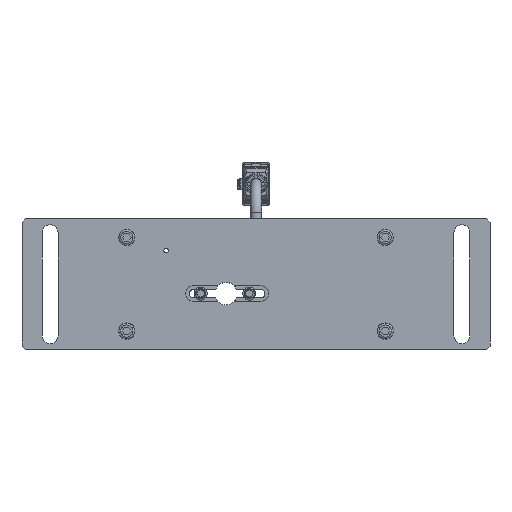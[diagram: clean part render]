
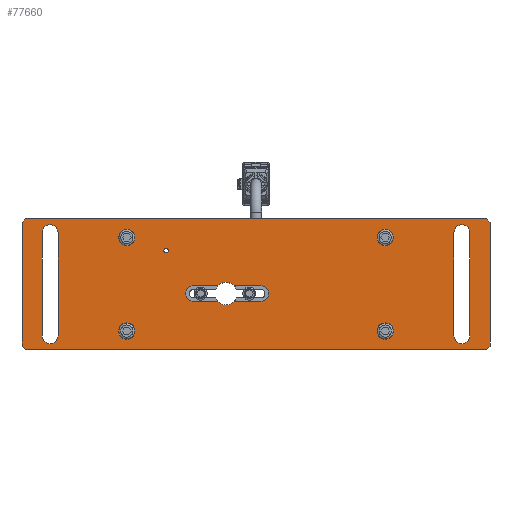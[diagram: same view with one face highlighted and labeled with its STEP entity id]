
A CAD part, front view. The second image highlights one B-rep face of the part: STEP entity #77660.
In plain terms, the highlighted planar face has unit normal (0, -1, 0) as drawn and (0, 0, 1) by its records, which use the part's own axes.
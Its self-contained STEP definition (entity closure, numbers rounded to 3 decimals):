
#2126=CIRCLE('',#81004,4.25);
#2127=CIRCLE('',#81005,4.25);
#2128=CIRCLE('',#81006,4.25);
#2129=CIRCLE('',#81007,4.25);
#2130=CIRCLE('',#81008,1.23);
#2131=CIRCLE('',#81009,6.);
#2132=CIRCLE('',#81010,4.15);
#2133=CIRCLE('',#81011,6.);
#2134=CIRCLE('',#81012,4.15);
#2135=CIRCLE('',#81013,4.35);
#2136=CIRCLE('',#81014,4.35);
#2137=CIRCLE('',#81015,4.35);
#2138=CIRCLE('',#81016,4.35);
#4760=ORIENTED_EDGE('',*,*,#23420,.F.);
#4761=ORIENTED_EDGE('',*,*,#23421,.F.);
#4762=ORIENTED_EDGE('',*,*,#23422,.F.);
#4763=ORIENTED_EDGE('',*,*,#23423,.F.);
#4764=ORIENTED_EDGE('',*,*,#23424,.F.);
#4765=ORIENTED_EDGE('',*,*,#23425,.F.);
#4766=ORIENTED_EDGE('',*,*,#23426,.F.);
#4767=ORIENTED_EDGE('',*,*,#23427,.F.);
#4768=ORIENTED_EDGE('',*,*,#23428,.T.);
#4769=ORIENTED_EDGE('',*,*,#23429,.F.);
#4770=ORIENTED_EDGE('',*,*,#23419,.T.);
#4771=ORIENTED_EDGE('',*,*,#23430,.T.);
#4772=ORIENTED_EDGE('',*,*,#23431,.T.);
#4773=ORIENTED_EDGE('',*,*,#23432,.F.);
#4774=ORIENTED_EDGE('',*,*,#23415,.T.);
#4775=ORIENTED_EDGE('',*,*,#23433,.T.);
#4776=ORIENTED_EDGE('',*,*,#23434,.T.);
#4777=ORIENTED_EDGE('',*,*,#23435,.T.);
#4778=ORIENTED_EDGE('',*,*,#23436,.T.);
#4779=ORIENTED_EDGE('',*,*,#23437,.T.);
#4780=ORIENTED_EDGE('',*,*,#23438,.T.);
#4781=ORIENTED_EDGE('',*,*,#23439,.T.);
#4782=ORIENTED_EDGE('',*,*,#23440,.T.);
#4783=ORIENTED_EDGE('',*,*,#23441,.T.);
#4784=ORIENTED_EDGE('',*,*,#23442,.T.);
#4785=ORIENTED_EDGE('',*,*,#23443,.T.);
#4786=ORIENTED_EDGE('',*,*,#23444,.T.);
#4787=ORIENTED_EDGE('',*,*,#23445,.T.);
#4788=ORIENTED_EDGE('',*,*,#23446,.T.);
#23415=EDGE_CURVE('',#32743,#32744,#38962,.T.);
#23419=EDGE_CURVE('',#32746,#32748,#38966,.T.);
#23420=EDGE_CURVE('',#32749,#32750,#2126,.T.);
#23421=EDGE_CURVE('',#32751,#32749,#38967,.T.);
#23422=EDGE_CURVE('',#32752,#32751,#2127,.T.);
#23423=EDGE_CURVE('',#32750,#32752,#38968,.T.);
#23424=EDGE_CURVE('',#32753,#32754,#2128,.T.);
#23425=EDGE_CURVE('',#32755,#32753,#38969,.T.);
#23426=EDGE_CURVE('',#32756,#32755,#2129,.T.);
#23427=EDGE_CURVE('',#32754,#32756,#38970,.T.);
#23428=EDGE_CURVE('',#32757,#32757,#2130,.T.);
#23429=EDGE_CURVE('',#32746,#32758,#2131,.T.);
#23430=EDGE_CURVE('',#32748,#32759,#2132,.T.);
#23431=EDGE_CURVE('',#32759,#32760,#38971,.T.);
#23432=EDGE_CURVE('',#32743,#32760,#2133,.T.);
#23433=EDGE_CURVE('',#32744,#32761,#2134,.T.);
#23434=EDGE_CURVE('',#32761,#32758,#38972,.T.);
#23435=EDGE_CURVE('',#32762,#32763,#38973,.T.);
#23436=EDGE_CURVE('',#32763,#32764,#38974,.F.);
#23437=EDGE_CURVE('',#32764,#32765,#38975,.T.);
#23438=EDGE_CURVE('',#32765,#32766,#38976,.F.);
#23439=EDGE_CURVE('',#32766,#32767,#38977,.T.);
#23440=EDGE_CURVE('',#32767,#32768,#38978,.F.);
#23441=EDGE_CURVE('',#32768,#32769,#38979,.T.);
#23442=EDGE_CURVE('',#32769,#32762,#38980,.F.);
#23443=EDGE_CURVE('',#32770,#32770,#2135,.T.);
#23444=EDGE_CURVE('',#32771,#32771,#2136,.T.);
#23445=EDGE_CURVE('',#32772,#32772,#2137,.T.);
#23446=EDGE_CURVE('',#32773,#32773,#2138,.T.);
#32743=VERTEX_POINT('',#105184);
#32744=VERTEX_POINT('',#105186);
#32746=VERTEX_POINT('',#105191);
#32748=VERTEX_POINT('',#105195);
#32749=VERTEX_POINT('',#105199);
#32750=VERTEX_POINT('',#105200);
#32751=VERTEX_POINT('',#105202);
#32752=VERTEX_POINT('',#105204);
#32753=VERTEX_POINT('',#105207);
#32754=VERTEX_POINT('',#105208);
#32755=VERTEX_POINT('',#105210);
#32756=VERTEX_POINT('',#105212);
#32757=VERTEX_POINT('',#105215);
#32758=VERTEX_POINT('',#105217);
#32759=VERTEX_POINT('',#105219);
#32760=VERTEX_POINT('',#105221);
#32761=VERTEX_POINT('',#105224);
#32762=VERTEX_POINT('',#105227);
#32763=VERTEX_POINT('',#105228);
#32764=VERTEX_POINT('',#105230);
#32765=VERTEX_POINT('',#105232);
#32766=VERTEX_POINT('',#105234);
#32767=VERTEX_POINT('',#105236);
#32768=VERTEX_POINT('',#105238);
#32769=VERTEX_POINT('',#105240);
#32770=VERTEX_POINT('',#105243);
#32771=VERTEX_POINT('',#105245);
#32772=VERTEX_POINT('',#105247);
#32773=VERTEX_POINT('',#105249);
#38962=LINE('',#105187,#45064);
#38966=LINE('',#105196,#45068);
#38967=LINE('',#105201,#45069);
#38968=LINE('',#105205,#45070);
#38969=LINE('',#105209,#45071);
#38970=LINE('',#105213,#45072);
#38971=LINE('',#105220,#45073);
#38972=LINE('',#105225,#45074);
#38973=LINE('',#105226,#45075);
#38974=LINE('',#105229,#45076);
#38975=LINE('',#105231,#45077);
#38976=LINE('',#105233,#45078);
#38977=LINE('',#105235,#45079);
#38978=LINE('',#105237,#45080);
#38979=LINE('',#105239,#45081);
#38980=LINE('',#105241,#45082);
#45064=VECTOR('',#87042,1000.);
#45068=VECTOR('',#87048,1000.);
#45069=VECTOR('',#87053,1000.);
#45070=VECTOR('',#87056,1000.);
#45071=VECTOR('',#87059,1000.);
#45072=VECTOR('',#87062,1000.);
#45073=VECTOR('',#87069,1000.);
#45074=VECTOR('',#87074,1000.);
#45075=VECTOR('',#87075,1000.);
#45076=VECTOR('',#87076,1000.);
#45077=VECTOR('',#87077,1000.);
#45078=VECTOR('',#87078,1000.);
#45079=VECTOR('',#87079,1000.);
#45080=VECTOR('',#87080,1000.);
#45081=VECTOR('',#87081,1000.);
#45082=VECTOR('',#87082,1000.);
#51158=EDGE_LOOP('',(#4760,#4761,#4762,#4763));
#51159=EDGE_LOOP('',(#4764,#4765,#4766,#4767));
#51160=EDGE_LOOP('',(#4768));
#51161=EDGE_LOOP('',(#4769,#4770,#4771,#4772,#4773,#4774,#4775,#4776));
#51162=EDGE_LOOP('',(#4777,#4778,#4779,#4780,#4781,#4782,#4783,#4784));
#51163=EDGE_LOOP('',(#4785));
#51164=EDGE_LOOP('',(#4786));
#51165=EDGE_LOOP('',(#4787));
#51166=EDGE_LOOP('',(#4788));
#54659=FACE_BOUND('',#51158,.T.);
#54660=FACE_BOUND('',#51159,.T.);
#54661=FACE_BOUND('',#51160,.T.);
#54662=FACE_BOUND('',#51161,.T.);
#54663=FACE_BOUND('',#51162,.T.);
#54664=FACE_BOUND('',#51163,.T.);
#54665=FACE_BOUND('',#51164,.T.);
#54666=FACE_BOUND('',#51165,.T.);
#54667=FACE_BOUND('',#51166,.T.);
#58160=PLANE('',#81003);
#77660=ADVANCED_FACE('',(#54659,#54660,#54661,#54662,#54663,#54664,#54665,
#54666,#54667),#58160,.T.);
#81003=AXIS2_PLACEMENT_3D('',#105197,#87049,#87050);
#81004=AXIS2_PLACEMENT_3D('',#105198,#87051,#87052);
#81005=AXIS2_PLACEMENT_3D('',#105203,#87054,#87055);
#81006=AXIS2_PLACEMENT_3D('',#105206,#87057,#87058);
#81007=AXIS2_PLACEMENT_3D('',#105211,#87060,#87061);
#81008=AXIS2_PLACEMENT_3D('',#105214,#87063,#87064);
#81009=AXIS2_PLACEMENT_3D('',#105216,#87065,#87066);
#81010=AXIS2_PLACEMENT_3D('',#105218,#87067,#87068);
#81011=AXIS2_PLACEMENT_3D('',#105222,#87070,#87071);
#81012=AXIS2_PLACEMENT_3D('',#105223,#87072,#87073);
#81013=AXIS2_PLACEMENT_3D('',#105242,#87083,#87084);
#81014=AXIS2_PLACEMENT_3D('',#105244,#87085,#87086);
#81015=AXIS2_PLACEMENT_3D('',#105246,#87087,#87088);
#81016=AXIS2_PLACEMENT_3D('',#105248,#87089,#87090);
#87042=DIRECTION('',(-1.,0.,0.));
#87048=DIRECTION('',(1.,0.,0.));
#87049=DIRECTION('',(0.,0.,1.));
#87050=DIRECTION('',(1.,0.,0.));
#87051=DIRECTION('',(0.,0.,1.));
#87052=DIRECTION('',(1.,0.,0.));
#87053=DIRECTION('',(0.,1.,0.));
#87054=DIRECTION('',(0.,0.,1.));
#87055=DIRECTION('',(-1.,0.,0.));
#87056=DIRECTION('',(0.,-1.,0.));
#87057=DIRECTION('',(0.,0.,1.));
#87058=DIRECTION('',(1.,0.,0.));
#87059=DIRECTION('',(0.,1.,0.));
#87060=DIRECTION('',(0.,0.,1.));
#87061=DIRECTION('',(-1.,0.,0.));
#87062=DIRECTION('',(0.,-1.,0.));
#87063=DIRECTION('',(0.,0.,-1.));
#87064=DIRECTION('',(0.,-1.,0.));
#87065=DIRECTION('',(0.,0.,1.));
#87066=DIRECTION('',(1.,0.,0.));
#87067=DIRECTION('',(0.,0.,-1.));
#87068=DIRECTION('',(-1.,0.,0.));
#87069=DIRECTION('',(-1.,0.,0.));
#87070=DIRECTION('',(0.,0.,1.));
#87071=DIRECTION('',(1.,0.,0.));
#87072=DIRECTION('',(0.,0.,-1.));
#87073=DIRECTION('',(1.,0.,0.));
#87074=DIRECTION('',(1.,0.,0.));
#87075=DIRECTION('',(0.,1.,0.));
#87076=DIRECTION('',(0.707,-0.707,0.));
#87077=DIRECTION('',(-1.,0.,0.));
#87078=DIRECTION('',(0.707,0.707,0.));
#87079=DIRECTION('',(0.,-1.,0.));
#87080=DIRECTION('',(-0.707,0.707,0.));
#87081=DIRECTION('',(1.,0.,0.));
#87082=DIRECTION('',(-0.707,-0.707,0.));
#87083=DIRECTION('',(0.,0.,-1.));
#87084=DIRECTION('',(0.,-1.,0.));
#87085=DIRECTION('',(0.,0.,-1.));
#87086=DIRECTION('',(0.,-1.,0.));
#87087=DIRECTION('',(0.,0.,-1.));
#87088=DIRECTION('',(0.,-1.,0.));
#87089=DIRECTION('',(0.,0.,-1.));
#87090=DIRECTION('',(0.,-1.,0.));
#105184=CARTESIAN_POINT('',(-20.333,-9.15,0.));
#105186=CARTESIAN_POINT('',(-33.4,-9.15,0.));
#105187=CARTESIAN_POINT('',(2.6,-9.15,0.));
#105191=CARTESIAN_POINT('',(-11.667,-0.85,0.));
#105195=CARTESIAN_POINT('',(2.6,-0.85,0.));
#105196=CARTESIAN_POINT('',(-33.4,-0.85,0.));
#105197=CARTESIAN_POINT('',(-125.,-35.,0.));
#105198=CARTESIAN_POINT('',(110.,27.5,0.));
#105199=CARTESIAN_POINT('',(114.25,27.5,0.));
#105200=CARTESIAN_POINT('',(105.75,27.5,0.));
#105201=CARTESIAN_POINT('',(114.25,-27.5,0.));
#105202=CARTESIAN_POINT('',(114.25,-27.5,0.));
#105203=CARTESIAN_POINT('',(110.,-27.5,0.));
#105204=CARTESIAN_POINT('',(105.75,-27.5,0.));
#105205=CARTESIAN_POINT('',(105.75,27.5,0.));
#105206=CARTESIAN_POINT('',(-110.,27.5,0.));
#105207=CARTESIAN_POINT('',(-105.75,27.5,0.));
#105208=CARTESIAN_POINT('',(-114.25,27.5,0.));
#105209=CARTESIAN_POINT('',(-105.75,-27.5,0.));
#105210=CARTESIAN_POINT('',(-105.75,-27.5,0.));
#105211=CARTESIAN_POINT('',(-110.,-27.5,0.));
#105212=CARTESIAN_POINT('',(-114.25,-27.5,0.));
#105213=CARTESIAN_POINT('',(-114.25,27.5,0.));
#105214=CARTESIAN_POINT('',(-48.,18.,0.));
#105215=CARTESIAN_POINT('',(-48.,16.771,0.));
#105216=CARTESIAN_POINT('',(-16.,-5.,0.));
#105217=CARTESIAN_POINT('',(-20.333,-0.85,0.));
#105218=CARTESIAN_POINT('',(2.6,-5.,0.));
#105219=CARTESIAN_POINT('',(2.6,-9.15,0.));
#105220=CARTESIAN_POINT('',(2.6,-9.15,0.));
#105221=CARTESIAN_POINT('',(-11.667,-9.15,0.));
#105222=CARTESIAN_POINT('',(-16.,-5.,0.));
#105223=CARTESIAN_POINT('',(-33.4,-5.,0.));
#105224=CARTESIAN_POINT('',(-33.4,-0.85,0.));
#105225=CARTESIAN_POINT('',(-33.4,-0.85,0.));
#105226=CARTESIAN_POINT('',(125.,-35.,0.));
#105227=CARTESIAN_POINT('',(125.,-33.,0.));
#105228=CARTESIAN_POINT('',(125.,33.,0.));
#105229=CARTESIAN_POINT('',(34.,124.,0.));
#105230=CARTESIAN_POINT('',(123.,35.,0.));
#105231=CARTESIAN_POINT('',(125.,35.,0.));
#105232=CARTESIAN_POINT('',(-123.,35.,0.));
#105233=CARTESIAN_POINT('',(-159.,-1.,0.));
#105234=CARTESIAN_POINT('',(-125.,33.,0.));
#105235=CARTESIAN_POINT('',(-125.,35.,0.));
#105236=CARTESIAN_POINT('',(-125.,-33.,0.));
#105237=CARTESIAN_POINT('',(-124.,-34.,0.));
#105238=CARTESIAN_POINT('',(-123.,-35.,0.));
#105239=CARTESIAN_POINT('',(-125.,-35.,0.));
#105240=CARTESIAN_POINT('',(123.,-35.,0.));
#105241=CARTESIAN_POINT('',(-1.,-159.,0.));
#105242=CARTESIAN_POINT('',(-69.,25.,0.));
#105243=CARTESIAN_POINT('',(-69.,20.65,0.));
#105244=CARTESIAN_POINT('',(69.,25.,0.));
#105245=CARTESIAN_POINT('',(69.,20.65,0.));
#105246=CARTESIAN_POINT('',(69.,-25.,0.));
#105247=CARTESIAN_POINT('',(69.,-29.35,0.));
#105248=CARTESIAN_POINT('',(-69.,-25.,0.));
#105249=CARTESIAN_POINT('',(-69.,-29.35,0.));
